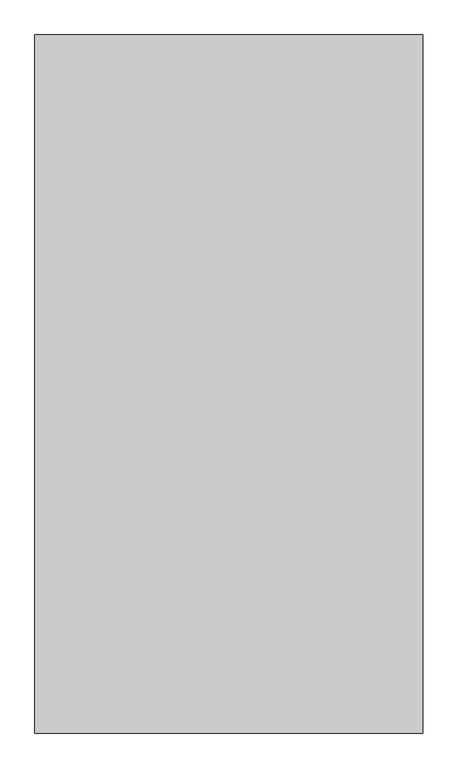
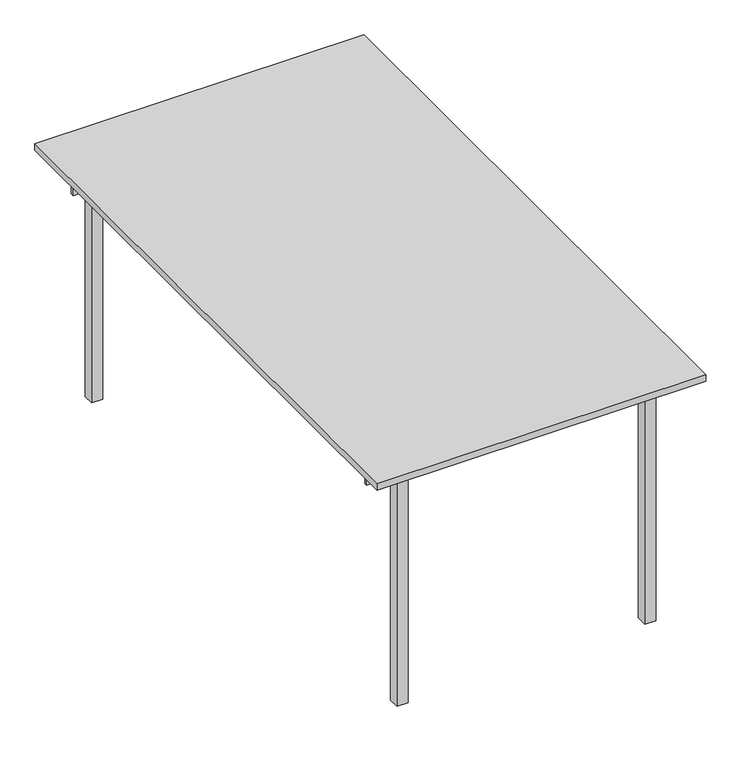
"""IFC4 building model written with IfcOpenShell, lengths in millimetres: furniture geometry, 桌 (2)-方型玻璃 : 大茶几-135 x 75 x 60cm."""

from ifc_helpers import new_model, si_unit, frame, origin, place, context, project, spatial, polyline, outline, extrude, faceted_brep, source, transform, mapped, element, save


def furniture_d72f1c28(model_context):
    return source(origin(), model_context, "Body", "SolidModel", [
        faceted_brep([(288.2657667, 194.3563551, 585.0), (-401.7342333, 194.3563551, 585.0), (-401.7342333, 187.0806351, 585.0), (288.2657667, 187.0806351, 585.0), (288.2657667, 194.3563551, 530.0), (288.2657667, 187.0806351, 530.0), (238.2657667, 187.0806351, 530.0), (238.2657667, 180.2110778, 530.0), (213.2657667, 180.2110778, 530.0), (213.2657667, 187.0806351, 530.0), (-326.7342333, 187.0806351, 530.0), (-326.7342333, 180.2110778, 530.0), (-351.7342333, 180.2110778, 530.0), (-351.7342333, 187.0806351, 530.0), (-401.7342333, 187.0806351, 530.0), (-401.7342333, 194.3563551, 530.0), (-351.7342333, 194.3563551, 530.0), (-351.7342333, 770.2110778, 530.0), (-326.7342333, 770.2110778, 530.0), (-326.7342333, 194.3563551, 530.0), (213.2657667, 194.3563551, 530.0), (213.2657667, 770.2110778, 530.0), (238.2657667, 770.2110778, 530.0), (238.2657667, 194.3563551, 530.0), (238.2657667, 194.3563551, 555.0), (213.2657667, 194.3563551, 555.0), (-326.7342333, 194.3563551, 555.0), (-351.7342333, 194.3563551, 555.0), (-351.7342333, 187.0806351, 555.0), (-326.7342333, 187.0806351, 555.0), (213.2657667, 187.0806351, 555.0), (238.2657667, 187.0806351, 555.0), (238.2657667, 155.2110778, 555.0), (238.2657667, 155.2110778, 0.0), (238.2657667, 180.2110778, 0.0), (238.2657667, 1360.2110778, 530.0), (238.2657667, 1360.2110778, 0.0), (238.2657667, 1385.2110778, 0.0), (238.2657667, 1385.2110778, 555.0), (238.2657667, 1353.3415205, 555.0), (238.2657667, 1353.3415205, 530.0), (238.2657667, 1346.0658006, 530.0), (238.2657667, 1346.0658006, 555.0), (238.2657667, 770.2110778, 555.0), (213.2657667, 1385.2110778, 555.0), (213.2657667, 1385.2110778, 0.0), (213.2657667, 1360.2110778, 0.0), (213.2657667, 1360.2110778, 530.0), (213.2657667, 1353.3415205, 530.0), (213.2657667, 1353.3415205, 555.0), (213.2657667, 180.2110778, 0.0), (213.2657667, 155.2110778, 0.0), (213.2657667, 155.2110778, 555.0), (213.2657667, 770.2110778, 555.0), (213.2657667, 1346.0658006, 555.0), (213.2657667, 1346.0658006, 530.0), (-351.7342333, 1385.2110778, 555.0), (-351.7342333, 1385.2110778, 0.0), (-351.7342333, 1360.2110778, 0.0), (-351.7342333, 1360.2110778, 530.0), (-351.7342333, 1353.3415205, 530.0), (-351.7342333, 1353.3415205, 555.0), (-351.7342333, 180.2110778, 0.0), (-351.7342333, 155.2110778, 0.0), (-351.7342333, 155.2110778, 555.0), (-351.7342333, 770.2110778, 555.0), (-351.7342333, 1346.0658006, 555.0), (-351.7342333, 1346.0658006, 530.0), (-326.7342333, 155.2110778, 555.0), (-326.7342333, 155.2110778, 0.0), (-326.7342333, 180.2110778, 0.0), (-326.7342333, 1360.2110778, 530.0), (-326.7342333, 1360.2110778, 0.0), (-326.7342333, 1385.2110778, 0.0), (-326.7342333, 1385.2110778, 555.0), (-326.7342333, 1353.3415205, 555.0), (-326.7342333, 1353.3415205, 530.0), (-326.7342333, 1346.0658006, 530.0), (-326.7342333, 1346.0658006, 555.0), (-326.7342333, 770.2110778, 555.0), (288.2657667, 1346.0658006, 525.0), (-401.7342333, 1346.0658006, 525.0), (-401.7342333, 1353.3415205, 525.0), (288.2657667, 1353.3415205, 525.0), (288.2657667, 1346.0658006, 585.0), (288.2657667, 1353.3415205, 585.0), (-401.7342333, 1353.3415205, 585.0), (-401.7342333, 1346.0658006, 585.0)], [[[0, 1, 2, 3]], [[4, 5, 6, 7, 8, 9, 10, 11, 12, 13, 14, 15, 16, 17, 18, 19, 20, 21, 22, 23]], [[1, 0, 4, 23, 24, 25, 20, 19, 26, 27, 16, 15]], [[2, 1, 15, 14]], [[3, 2, 14, 13, 28, 29, 10, 9, 30, 31, 6, 5]], [[0, 3, 5, 4]], [[32, 33, 34, 7, 6, 31]], [[35, 36, 37, 38, 39, 40]], [[23, 22, 41, 42, 43, 24]], [[44, 45, 46, 47, 48, 49]], [[8, 50, 51, 52, 30, 9]], [[21, 20, 25, 53, 54, 55]], [[38, 44, 49, 39]], [[53, 43, 42, 54]], [[43, 53, 25, 24]], [[52, 32, 31, 30]], [[33, 32, 52, 51]], [[34, 33, 51, 50]], [[7, 34, 50, 8]], [[22, 21, 55, 41]], [[47, 35, 40, 48]], [[36, 35, 47, 46]], [[37, 36, 46, 45]], [[38, 37, 45, 44]], [[56, 57, 58, 59, 60, 61]], [[12, 62, 63, 64, 28, 13]], [[17, 16, 27, 65, 66, 67]], [[68, 69, 70, 11, 10, 29]], [[71, 72, 73, 74, 75, 76]], [[19, 18, 77, 78, 79, 26]], [[57, 56, 74, 73]], [[58, 57, 73, 72]], [[59, 58, 72, 71]], [[59, 71, 76, 60]], [[18, 17, 67, 77]], [[62, 12, 11, 70]], [[63, 62, 70, 69]], [[64, 63, 69, 68]], [[64, 68, 29, 28]], [[79, 65, 27, 26]], [[74, 56, 61, 75]], [[65, 79, 78, 66]], [[80, 81, 82, 83]], [[84, 85, 86, 87]], [[81, 80, 84, 87], [42, 41, 55, 54], [67, 66, 78, 77]], [[82, 81, 87, 86]], [[83, 82, 86, 85], [40, 39, 49, 48], [61, 60, 76, 75]], [[80, 83, 85, 84]]]),
        extrude(outline(polyline([(318.2657667, 1445.2110778), (318.2657667, 95.2110778), (-431.7342333, 95.2110778), (-431.7342333, 1445.2110778), (318.2657667, 1445.2110778)])), frame((0.0, 0.0, 585.0), z_axis=(0.0, 0.0, 1.0), x_axis=(1.0, 0.0, 0.0)), (0.0, 0.0, 1.0), 15.0),
    ])


if __name__ == "__main__":
    model = new_model("IFC4")
    model_context = context("Model", 3, world=origin())
    ifc_project = project(units=[si_unit("LENGTHUNIT", "METRE", prefix="MILLI")], contexts=[model_context])
    site = spatial("IfcSite", under=ifc_project)
    building = spatial("IfcBuilding", under=site)
    placement = place(None, origin())
    furniture_shape = furniture_d72f1c28(model_context)
    element("IfcFurniture", 1, ObjectType="桌 (2)-方型玻璃 : 大茶几-135 x 75 x 60cm", at=placement, inside=building, context=model_context, shape_type="MappedRepresentation", body=[
        mapped(furniture_shape, transform((0.0, 0.0, 0.0), x_axis=(1.0, 0.0, 0.0), y_axis=(0.0, 1.0, 0.0), z_axis=(0.0, 0.0, 1.0))),
    ])
    save(model, "model.ifc")
